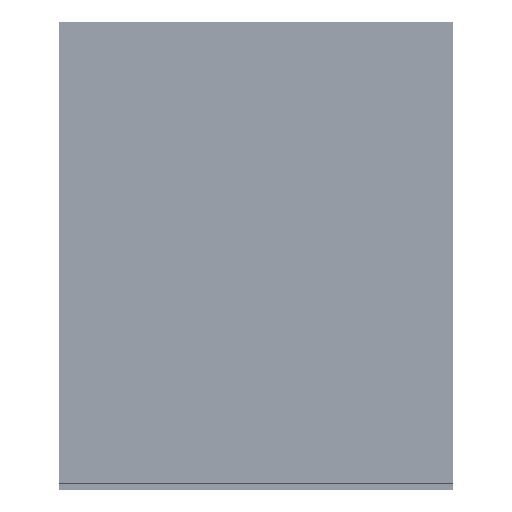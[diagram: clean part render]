
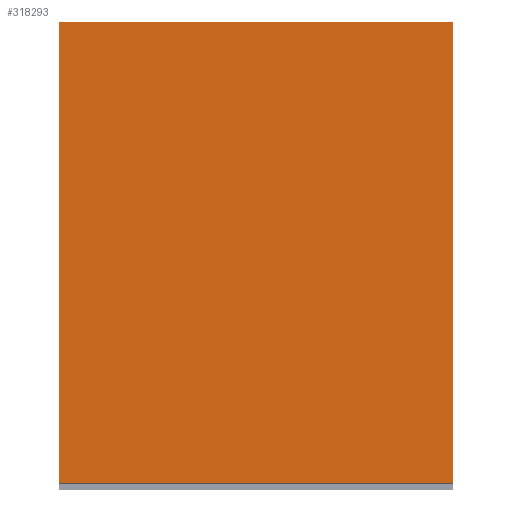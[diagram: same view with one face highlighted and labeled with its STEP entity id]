
A CAD part, left-side view. The second image highlights one B-rep face of the part: STEP entity #318293.
In plain terms, the highlighted planar face has unit normal (-1, 0, 0).
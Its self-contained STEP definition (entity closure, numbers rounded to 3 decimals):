
#318032=CARTESIAN_POINT('',(1534.659,1035.316,582.5));
#318033=VERTEX_POINT('',#318032);
#318040=CARTESIAN_POINT('',(1534.659,1035.109,582.293));
#318041=VERTEX_POINT('',#318040);
#318042=CARTESIAN_POINT('',(1534.659,1035.316,582.5));
#318043=DIRECTION('',(0.0,-0.707,-0.707));
#318044=VECTOR('',#318043,0.293);
#318045=LINE('',#318042,#318044);
#318046=EDGE_CURVE('',#318033,#318041,#318045,.T.);
#318063=CARTESIAN_POINT('',(1534.659,1531.902,582.5));
#318064=VERTEX_POINT('',#318063);
#318071=CARTESIAN_POINT('',(1534.659,1531.902,582.5));
#318072=DIRECTION('',(0.0,-1.0,0.0));
#318073=VECTOR('',#318072,496.586);
#318074=LINE('',#318071,#318073);
#318075=EDGE_CURVE('',#318064,#318033,#318074,.T.);
#318086=CARTESIAN_POINT('',(1534.659,1035.109,0.707));
#318087=VERTEX_POINT('',#318086);
#318088=CARTESIAN_POINT('',(1534.659,1035.109,582.293));
#318089=DIRECTION('',(0.0,0.0,-1.0));
#318090=VECTOR('',#318089,581.586);
#318091=LINE('',#318088,#318090);
#318092=EDGE_CURVE('',#318041,#318087,#318091,.T.);
#318118=CARTESIAN_POINT('',(1534.659,1532.109,582.293));
#318119=VERTEX_POINT('',#318118);
#318126=CARTESIAN_POINT('',(1534.659,1532.109,582.293));
#318127=DIRECTION('',(0.0,-0.707,0.707));
#318128=VECTOR('',#318127,0.293);
#318129=LINE('',#318126,#318128);
#318130=EDGE_CURVE('',#318119,#318064,#318129,.T.);
#318141=CARTESIAN_POINT('',(1534.659,1035.316,0.5));
#318142=VERTEX_POINT('',#318141);
#318143=CARTESIAN_POINT('',(1534.659,1035.109,0.707));
#318144=DIRECTION('',(0.0,0.707,-0.707));
#318145=VECTOR('',#318144,0.293);
#318146=LINE('',#318143,#318145);
#318147=EDGE_CURVE('',#318087,#318142,#318146,.T.);
#318173=CARTESIAN_POINT('',(1534.659,1532.109,0.707));
#318174=VERTEX_POINT('',#318173);
#318181=CARTESIAN_POINT('',(1534.659,1532.109,0.707));
#318182=DIRECTION('',(0.0,0.0,1.0));
#318183=VECTOR('',#318182,581.586);
#318184=LINE('',#318181,#318183);
#318185=EDGE_CURVE('',#318174,#318119,#318184,.T.);
#318196=CARTESIAN_POINT('',(1534.659,1531.902,0.5));
#318197=VERTEX_POINT('',#318196);
#318198=CARTESIAN_POINT('',(1534.659,1035.316,0.5));
#318199=DIRECTION('',(0.0,1.0,0.0));
#318200=VECTOR('',#318199,496.586);
#318201=LINE('',#318198,#318200);
#318202=EDGE_CURVE('',#318142,#318197,#318201,.T.);
#318234=CARTESIAN_POINT('',(1534.659,1531.902,0.5));
#318235=DIRECTION('',(0.0,0.707,0.707));
#318236=VECTOR('',#318235,0.293);
#318237=LINE('',#318234,#318236);
#318238=EDGE_CURVE('',#318197,#318174,#318237,.T.);
#318278=CARTESIAN_POINT('',(1534.659,1532.609,0.));
#318279=DIRECTION('',(-1.0,0.0,0.0));
#318280=DIRECTION('',(0.0,-1.0,0.0));
#318281=AXIS2_PLACEMENT_3D('',#318278,#318279,#318280);
#318282=PLANE('',#318281);
#318283=ORIENTED_EDGE('',*,*,#318046,.F.);
#318284=ORIENTED_EDGE('',*,*,#318075,.F.);
#318285=ORIENTED_EDGE('',*,*,#318130,.F.);
#318286=ORIENTED_EDGE('',*,*,#318185,.F.);
#318287=ORIENTED_EDGE('',*,*,#318238,.F.);
#318288=ORIENTED_EDGE('',*,*,#318202,.F.);
#318289=ORIENTED_EDGE('',*,*,#318147,.F.);
#318290=ORIENTED_EDGE('',*,*,#318092,.F.);
#318291=EDGE_LOOP('',(#318283,#318284,#318285,#318286,#318287,#318288,#318289,#318290));
#318292=FACE_OUTER_BOUND('',#318291,.T.);
#318293=ADVANCED_FACE('',(#318292),#318282,.T.);
